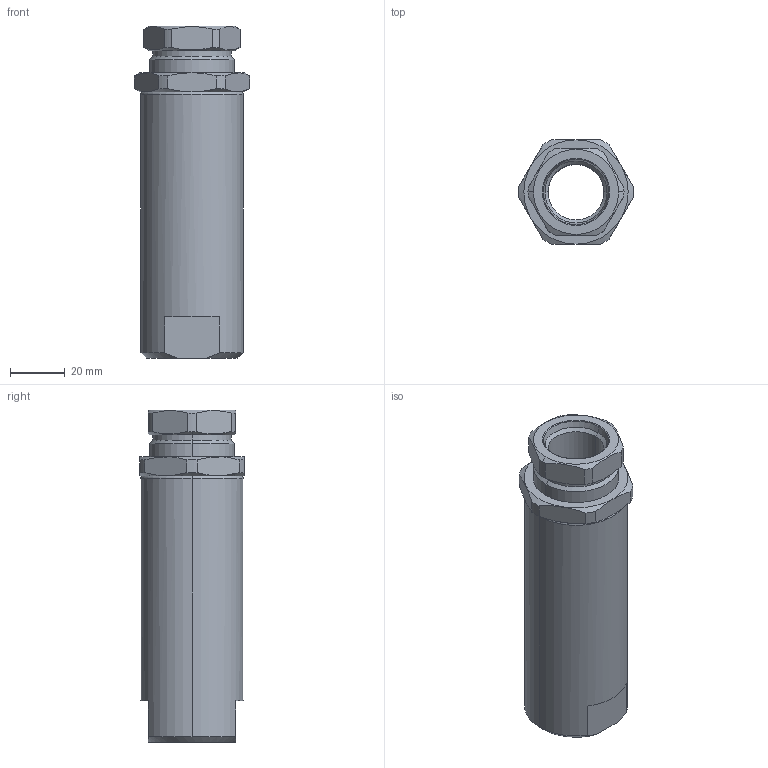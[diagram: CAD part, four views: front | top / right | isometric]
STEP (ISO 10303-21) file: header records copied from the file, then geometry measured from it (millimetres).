
FILE_DESCRIPTION (( 'STEP AP214' ), '1' );
FILE_NAME ('VSQ78001.STEP', '2025-05-15T23:56:39', ( '' ), ( '' ), 'SwSTEP 2.0', 'SolidWorks 2023', '' );
FILE_SCHEMA (( 'AUTOMOTIVE_DESIGN' ));
Length unit declared in the file: millimetre
Products named in the file (1): VSQ78001
Bounding box: 41.98 x 38.1 x 121 mm (x, y, z)
Surface area: 21536.3 mm2 (no closed solid volume)
Topology: 0 solids, 3 shells, 75 faces, 189 edges, 119 vertices
Faces by surface type: cylinder 23, cone 23, plane 21, torus 8
Entity records: 2498 total; most frequent: CARTESIAN_POINT 672, DIRECTION 402, ORIENTED_EDGE 366, EDGE_CURVE 189, AXIS2_PLACEMENT_3D 169, VERTEX_POINT 119, CIRCLE 93, EDGE_LOOP 80
